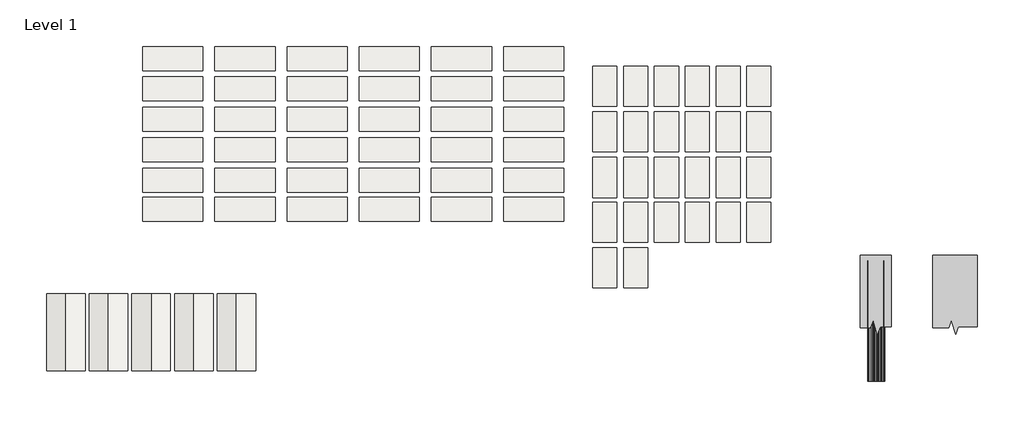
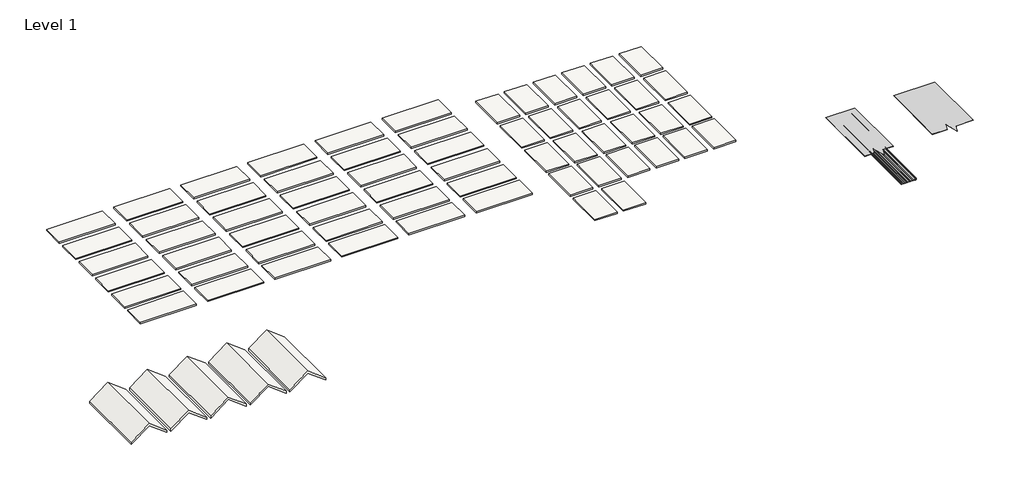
# One storey: 62 slabs, 5 roofs, 3 proxies.
"""IFC4 building model written with IfcOpenShell, lengths in millimetres."""

from ifc_helpers import new_model, si_unit, frame, origin, place, context, project, spatial, polyline, outline, extrude, transform, mapped, element, save
from components import proxy_8f1d55d1, section_mask1_section_mask_d04c1bcf, section_mask2_section_mask_c3d297e0

model = new_model("IFC4")

# Units and contexts
model_context = context("Model", 3, world=origin())
ifc_project = project(units=[si_unit("LENGTHUNIT", "METRE", prefix="MILLI")], contexts=[model_context])

# Site, building, storey
site = spatial("IfcSite", under=ifc_project)
building = spatial("IfcBuilding", under=site)
storey = spatial("IfcBuildingStorey", under=building, Name="Level 1", Elevation=0.0)

# Proxies
placement = place(None, origin())
proxy_shape = proxy_8f1d55d1(model_context)
element("IfcBuildingElementProxy", 1, Name="Metal_Roofing_Standing-Seam-Panel_Steelscape : 16\" Standing Seam Panel", ObjectType="Metal_Roofing_Standing-Seam-Panel_Steelscape : 16\" Standing Seam Panel", at=placement, inside=storey, context=model_context, shape_type="MappedRepresentation", body=[
    mapped(proxy_shape, transform((8065.9412903, 2573.2522943, 0.0), x_axis=(1.0, 0.0, 0.0), y_axis=(0.0, 1.0, 0.0), z_axis=(0.0, 0.0, 1.0))),
])
section_mask1_section_mask_shape = section_mask1_section_mask_d04c1bcf(model_context)
element("IfcBuildingElementProxy", 2, Name="Section Mask1 : Section Mask", ObjectType="Section Mask1 : Section Mask", at=placement, inside=storey, context=model_context, shape_type="MappedRepresentation", body=[
    mapped(section_mask1_section_mask_shape, transform((1955.8, 0.0, 0.0), x_axis=(1.0, 0.0, 0.0), y_axis=(0.0, 1.0, 0.0), z_axis=(0.0, 0.0, 1.0))),
])
section_mask2_section_mask_shape = section_mask2_section_mask_c3d297e0(model_context)
element("IfcBuildingElementProxy", 3, Name="Section Mask2 : Section Mask", ObjectType="Section Mask2 : Section Mask", at=placement, inside=storey, context=model_context, shape_type="MappedRepresentation", body=[
    mapped(section_mask2_section_mask_shape, transform((-31.75, 0.0, 12.7), x_axis=(1.0, 0.0, 0.0), y_axis=(0.0, 1.0, 0.0), z_axis=(0.0, 0.0, 1.0))),
])

# Roofs
element("IfcRoof", 4, ObjectType="16\" Standing Seam Panel", at=placement, inside=storey, context=model_context, shape_type="SweptSolid", body=[
    extrude(outline(polyline([(-299.3992477, -10912.2841678), (66.3458695, -11399.9443241), (-299.3992477, -11887.6044803), (-362.8992477, -11887.6044803), (2.8458695, -11399.9443241), (-362.8992477, -10912.2841678), (-299.3992477, -10912.2841678)])), frame((0.0, -211.318403, 0.0), z_axis=(0.0, 1.0, 0.0), x_axis=(0.0, 0.0, 1.0)), (0.0, 0.0, 1.0), 1950.640625),
])
element("IfcRoof", 5, ObjectType="16\" Standing Seam Panel", at=placement, inside=storey, context=model_context, shape_type="SweptSolid", body=[
    extrude(outline(polyline([(-299.3992477, -9830.9982303), (66.3458695, -10318.6583866), (-299.3992477, -10806.3185428), (-362.8992477, -10806.3185428), (2.8458695, -10318.6583866), (-362.8992477, -9830.9982303), (-299.3992477, -9830.9982303)])), frame((0.0, -211.318403, 0.0), z_axis=(0.0, 1.0, 0.0), x_axis=(0.0, 0.0, 1.0)), (0.0, 0.0, 1.0), 1950.640625),
])
element("IfcRoof", 6, ObjectType="16\" Standing Seam Panel", at=placement, inside=storey, context=model_context, shape_type="SweptSolid", body=[
    extrude(outline(polyline([(-299.3992477, -8749.7122928), (66.3458695, -9237.3724491), (-299.3992477, -9725.0326053), (-362.8992477, -9725.0326053), (2.8458695, -9237.3724491), (-362.8992477, -8749.7122928), (-299.3992477, -8749.7122928)])), frame((0.0, -211.318403, 0.0), z_axis=(0.0, 1.0, 0.0), x_axis=(0.0, 0.0, 1.0)), (0.0, 0.0, 1.0), 1950.640625),
])
element("IfcRoof", 7, ObjectType="16\" Standing Seam Panel", at=placement, inside=storey, context=model_context, shape_type="SweptSolid", body=[
    extrude(outline(polyline([(-299.3992477, -7668.4263553), (66.3458695, -8156.0865116), (-299.3992477, -8643.7466678), (-362.8992477, -8643.7466678), (2.8458695, -8156.0865116), (-362.8992477, -7668.4263553), (-299.3992477, -7668.4263553)])), frame((0.0, -211.318403, 0.0), z_axis=(0.0, 1.0, 0.0), x_axis=(0.0, 0.0, 1.0)), (0.0, 0.0, 1.0), 1950.640625),
])
element("IfcRoof", 8, ObjectType="16\" Standing Seam Panel", at=placement, inside=storey, context=model_context, shape_type="SweptSolid", body=[
    extrude(outline(polyline([(-299.3992477, -11993.5701053), (66.3458695, -12481.2302616), (-299.3992477, -12968.8904178), (-362.8992477, -12968.8904178), (2.8458695, -12481.2302616), (-362.8992477, -11993.5701053), (-299.3992477, -11993.5701053)])), frame((0.0, -211.318403, 0.0), z_axis=(0.0, 1.0, 0.0), x_axis=(0.0, 0.0, 1.0)), (0.0, 0.0, 1.0), 1950.640625),
])

# Slabs
element("IfcSlab", 9, ObjectType="Metal Siding - PAINTED - Steelscape", at=placement, inside=storey, context=model_context, shape_type="SweptSolid", body=[
    extrude(outline(polyline([(-9006.1610252, 7398.0362798), (-10530.1610252, 7398.0362798), (-10530.1610252, 8007.6362798), (-9006.1610252, 8007.6362798), (-9006.1610252, 7398.0362798)])), frame((0.0, 0.0, -38.1), z_axis=(0.0, 0.0, 1.0), x_axis=(1.0, 0.0, 0.0)), (0.0, 0.0, 1.0), 38.1),
])
element("IfcSlab", 10, ObjectType="Metal Siding - PAINTED - Steelscape", at=placement, inside=storey, context=model_context, shape_type="SweptSolid", body=[
    extrude(outline(polyline([(-9006.1610252, 6629.6862798), (-10530.1610252, 6629.6862798), (-10530.1610252, 7239.2862798), (-9006.1610252, 7239.2862798), (-9006.1610252, 6629.6862798)])), frame((0.0, 0.0, -38.1), z_axis=(0.0, 0.0, 1.0), x_axis=(1.0, 0.0, 0.0)), (0.0, 0.0, 1.0), 38.1),
])
element("IfcSlab", 11, ObjectType="Metal Siding - PAINTED - Steelscape", at=placement, inside=storey, context=model_context, shape_type="SweptSolid", body=[
    extrude(outline(polyline([(-9006.1610252, 5861.3362798), (-10530.1610252, 5861.3362798), (-10530.1610252, 6470.9362798), (-9006.1610252, 6470.9362798), (-9006.1610252, 5861.3362798)])), frame((0.0, 0.0, -38.1), z_axis=(0.0, 0.0, 1.0), x_axis=(1.0, 0.0, 0.0)), (0.0, 0.0, 1.0), 38.1),
])
element("IfcSlab", 12, ObjectType="Metal Siding - PAINTED - Steelscape", at=placement, inside=storey, context=model_context, shape_type="SweptSolid", body=[
    extrude(outline(polyline([(-9006.1610252, 5086.6362798), (-10530.1610252, 5086.6362798), (-10530.1610252, 5696.2362798), (-9006.1610252, 5696.2362798), (-9006.1610252, 5086.6362798)])), frame((0.0, 0.0, -38.1), z_axis=(0.0, 0.0, 1.0), x_axis=(1.0, 0.0, 0.0)), (0.0, 0.0, 1.0), 38.1),
])
element("IfcSlab", 13, ObjectType="Metal Siding - PAINTED - Steelscape", at=placement, inside=storey, context=model_context, shape_type="SweptSolid", body=[
    extrude(outline(polyline([(-9006.1610252, 4318.2862798), (-10530.1610252, 4318.2862798), (-10530.1610252, 4927.8862798), (-9006.1610252, 4927.8862798), (-9006.1610252, 4318.2862798)])), frame((0.0, 0.0, -38.1), z_axis=(0.0, 0.0, 1.0), x_axis=(1.0, 0.0, 0.0)), (0.0, 0.0, 1.0), 38.1),
])
element("IfcSlab", 14, ObjectType="Metal Siding - PAINTED - Steelscape", at=placement, inside=storey, context=model_context, shape_type="SweptSolid", body=[
    extrude(outline(polyline([(-9006.1610252, 3575.3362798), (-10530.1610252, 3575.3362798), (-10530.1610252, 4184.9362798), (-9006.1610252, 4184.9362798), (-9006.1610252, 3575.3362798)])), frame((0.0, 0.0, -38.1), z_axis=(0.0, 0.0, 1.0), x_axis=(1.0, 0.0, 0.0)), (0.0, 0.0, 1.0), 38.1),
])
element("IfcSlab", 15, ObjectType="Metal Siding - PAINTED - Steelscape", at=placement, inside=storey, context=model_context, shape_type="SweptSolid", body=[
    extrude(outline(polyline([(-7177.3610252, 7398.0362798), (-8701.3610252, 7398.0362798), (-8701.3610252, 8007.6362798), (-7177.3610252, 8007.6362798), (-7177.3610252, 7398.0362798)])), frame((0.0, 0.0, -38.1), z_axis=(0.0, 0.0, 1.0), x_axis=(1.0, 0.0, 0.0)), (0.0, 0.0, 1.0), 38.1),
])
element("IfcSlab", 16, ObjectType="Metal Siding - PAINTED - Steelscape", at=placement, inside=storey, context=model_context, shape_type="SweptSolid", body=[
    extrude(outline(polyline([(-7177.3610252, 6629.6862798), (-8701.3610252, 6629.6862798), (-8701.3610252, 7239.2862798), (-7177.3610252, 7239.2862798), (-7177.3610252, 6629.6862798)])), frame((0.0, 0.0, -38.1), z_axis=(0.0, 0.0, 1.0), x_axis=(1.0, 0.0, 0.0)), (0.0, 0.0, 1.0), 38.1),
])
element("IfcSlab", 17, ObjectType="Metal Siding - PAINTED - Steelscape", at=placement, inside=storey, context=model_context, shape_type="SweptSolid", body=[
    extrude(outline(polyline([(-7177.3610252, 5861.3362798), (-8701.3610252, 5861.3362798), (-8701.3610252, 6470.9362798), (-7177.3610252, 6470.9362798), (-7177.3610252, 5861.3362798)])), frame((0.0, 0.0, -38.1), z_axis=(0.0, 0.0, 1.0), x_axis=(1.0, 0.0, 0.0)), (0.0, 0.0, 1.0), 38.1),
])
element("IfcSlab", 18, ObjectType="Metal Siding - PAINTED - Steelscape", at=placement, inside=storey, context=model_context, shape_type="SweptSolid", body=[
    extrude(outline(polyline([(-7177.3610252, 5086.6362798), (-8701.3610252, 5086.6362798), (-8701.3610252, 5696.2362798), (-7177.3610252, 5696.2362798), (-7177.3610252, 5086.6362798)])), frame((0.0, 0.0, -38.1), z_axis=(0.0, 0.0, 1.0), x_axis=(1.0, 0.0, 0.0)), (0.0, 0.0, 1.0), 38.1),
])
element("IfcSlab", 19, ObjectType="Metal Siding - PAINTED - Steelscape", at=placement, inside=storey, context=model_context, shape_type="SweptSolid", body=[
    extrude(outline(polyline([(-7177.3610252, 4318.2862798), (-8701.3610252, 4318.2862798), (-8701.3610252, 4927.8862798), (-7177.3610252, 4927.8862798), (-7177.3610252, 4318.2862798)])), frame((0.0, 0.0, -38.1), z_axis=(0.0, 0.0, 1.0), x_axis=(1.0, 0.0, 0.0)), (0.0, 0.0, 1.0), 38.1),
])
element("IfcSlab", 20, ObjectType="Metal Siding - PAINTED - Steelscape", at=placement, inside=storey, context=model_context, shape_type="SweptSolid", body=[
    extrude(outline(polyline([(-7177.3610252, 3575.3362798), (-8701.3610252, 3575.3362798), (-8701.3610252, 4184.9362798), (-7177.3610252, 4184.9362798), (-7177.3610252, 3575.3362798)])), frame((0.0, 0.0, -38.1), z_axis=(0.0, 0.0, 1.0), x_axis=(1.0, 0.0, 0.0)), (0.0, 0.0, 1.0), 38.1),
])
element("IfcSlab", 21, ObjectType="Metal Siding - PAINTED - Steelscape", at=placement, inside=storey, context=model_context, shape_type="SweptSolid", body=[
    extrude(outline(polyline([(-5348.5610252, 7398.0362798), (-6872.5610252, 7398.0362798), (-6872.5610252, 8007.6362798), (-5348.5610252, 8007.6362798), (-5348.5610252, 7398.0362798)])), frame((0.0, 0.0, -38.1), z_axis=(0.0, 0.0, 1.0), x_axis=(1.0, 0.0, 0.0)), (0.0, 0.0, 1.0), 38.1),
])
element("IfcSlab", 22, ObjectType="Metal Siding - PAINTED - Steelscape", at=placement, inside=storey, context=model_context, shape_type="SweptSolid", body=[
    extrude(outline(polyline([(-5348.5610252, 6629.6862798), (-6872.5610252, 6629.6862798), (-6872.5610252, 7239.2862798), (-5348.5610252, 7239.2862798), (-5348.5610252, 6629.6862798)])), frame((0.0, 0.0, -38.1), z_axis=(0.0, 0.0, 1.0), x_axis=(1.0, 0.0, 0.0)), (0.0, 0.0, 1.0), 38.1),
])
element("IfcSlab", 23, ObjectType="Metal Siding - PAINTED - Steelscape", at=placement, inside=storey, context=model_context, shape_type="SweptSolid", body=[
    extrude(outline(polyline([(-5348.5610252, 5861.3362798), (-6872.5610252, 5861.3362798), (-6872.5610252, 6470.9362798), (-5348.5610252, 6470.9362798), (-5348.5610252, 5861.3362798)])), frame((0.0, 0.0, -38.1), z_axis=(0.0, 0.0, 1.0), x_axis=(1.0, 0.0, 0.0)), (0.0, 0.0, 1.0), 38.1),
])
element("IfcSlab", 24, ObjectType="Metal Siding - PAINTED - Steelscape", at=placement, inside=storey, context=model_context, shape_type="SweptSolid", body=[
    extrude(outline(polyline([(-5348.5610252, 5086.6362798), (-6872.5610252, 5086.6362798), (-6872.5610252, 5696.2362798), (-5348.5610252, 5696.2362798), (-5348.5610252, 5086.6362798)])), frame((0.0, 0.0, -38.1), z_axis=(0.0, 0.0, 1.0), x_axis=(1.0, 0.0, 0.0)), (0.0, 0.0, 1.0), 38.1),
])
element("IfcSlab", 25, ObjectType="Metal Siding - PAINTED - Steelscape", at=placement, inside=storey, context=model_context, shape_type="SweptSolid", body=[
    extrude(outline(polyline([(-5348.5610252, 4318.2862798), (-6872.5610252, 4318.2862798), (-6872.5610252, 4927.8862798), (-5348.5610252, 4927.8862798), (-5348.5610252, 4318.2862798)])), frame((0.0, 0.0, -38.1), z_axis=(0.0, 0.0, 1.0), x_axis=(1.0, 0.0, 0.0)), (0.0, 0.0, 1.0), 38.1),
])
element("IfcSlab", 26, ObjectType="Metal Siding - PAINTED - Steelscape", at=placement, inside=storey, context=model_context, shape_type="SweptSolid", body=[
    extrude(outline(polyline([(-5348.5610252, 3575.3362798), (-6872.5610252, 3575.3362798), (-6872.5610252, 4184.9362798), (-5348.5610252, 4184.9362798), (-5348.5610252, 3575.3362798)])), frame((0.0, 0.0, -38.1), z_axis=(0.0, 0.0, 1.0), x_axis=(1.0, 0.0, 0.0)), (0.0, 0.0, 1.0), 38.1),
])
element("IfcSlab", 27, ObjectType="Metal Siding - PAINTED - Steelscape", at=placement, inside=storey, context=model_context, shape_type="SweptSolid", body=[
    extrude(outline(polyline([(-3519.7610252, 7398.0362798), (-5043.7610252, 7398.0362798), (-5043.7610252, 8007.6362798), (-3519.7610252, 8007.6362798), (-3519.7610252, 7398.0362798)])), frame((0.0, 0.0, -38.1), z_axis=(0.0, 0.0, 1.0), x_axis=(1.0, 0.0, 0.0)), (0.0, 0.0, 1.0), 38.1),
])
element("IfcSlab", 28, ObjectType="Metal Siding - PAINTED - Steelscape", at=placement, inside=storey, context=model_context, shape_type="SweptSolid", body=[
    extrude(outline(polyline([(-3519.7610252, 6629.6862798), (-5043.7610252, 6629.6862798), (-5043.7610252, 7239.2862798), (-3519.7610252, 7239.2862798), (-3519.7610252, 6629.6862798)])), frame((0.0, 0.0, -38.1), z_axis=(0.0, 0.0, 1.0), x_axis=(1.0, 0.0, 0.0)), (0.0, 0.0, 1.0), 38.1),
])
element("IfcSlab", 29, ObjectType="Metal Siding - PAINTED - Steelscape", at=placement, inside=storey, context=model_context, shape_type="SweptSolid", body=[
    extrude(outline(polyline([(-3519.7610252, 5861.3362798), (-5043.7610252, 5861.3362798), (-5043.7610252, 6470.9362798), (-3519.7610252, 6470.9362798), (-3519.7610252, 5861.3362798)])), frame((0.0, 0.0, -38.1), z_axis=(0.0, 0.0, 1.0), x_axis=(1.0, 0.0, 0.0)), (0.0, 0.0, 1.0), 38.1),
])
element("IfcSlab", 30, ObjectType="Metal Siding - PAINTED - Steelscape", at=placement, inside=storey, context=model_context, shape_type="SweptSolid", body=[
    extrude(outline(polyline([(-3519.7610252, 5086.6362798), (-5043.7610252, 5086.6362798), (-5043.7610252, 5696.2362798), (-3519.7610252, 5696.2362798), (-3519.7610252, 5086.6362798)])), frame((0.0, 0.0, -38.1), z_axis=(0.0, 0.0, 1.0), x_axis=(1.0, 0.0, 0.0)), (0.0, 0.0, 1.0), 38.1),
])
element("IfcSlab", 31, ObjectType="Metal Siding - PAINTED - Steelscape", at=placement, inside=storey, context=model_context, shape_type="SweptSolid", body=[
    extrude(outline(polyline([(-3519.7610252, 4318.2862798), (-5043.7610252, 4318.2862798), (-5043.7610252, 4927.8862798), (-3519.7610252, 4927.8862798), (-3519.7610252, 4318.2862798)])), frame((0.0, 0.0, -38.1), z_axis=(0.0, 0.0, 1.0), x_axis=(1.0, 0.0, 0.0)), (0.0, 0.0, 1.0), 38.1),
])
element("IfcSlab", 32, ObjectType="Metal Siding - PAINTED - Steelscape", at=placement, inside=storey, context=model_context, shape_type="SweptSolid", body=[
    extrude(outline(polyline([(-3519.7610252, 3575.3362798), (-5043.7610252, 3575.3362798), (-5043.7610252, 4184.9362798), (-3519.7610252, 4184.9362798), (-3519.7610252, 3575.3362798)])), frame((0.0, 0.0, -38.1), z_axis=(0.0, 0.0, 1.0), x_axis=(1.0, 0.0, 0.0)), (0.0, 0.0, 1.0), 38.1),
])
element("IfcSlab", 33, ObjectType="Metal Siding - PAINTED - Steelscape", at=placement, inside=storey, context=model_context, shape_type="SweptSolid", body=[
    extrude(outline(polyline([(-1690.9610252, 7398.0362798), (-3214.9610252, 7398.0362798), (-3214.9610252, 8007.6362798), (-1690.9610252, 8007.6362798), (-1690.9610252, 7398.0362798)])), frame((0.0, 0.0, -38.1), z_axis=(0.0, 0.0, 1.0), x_axis=(1.0, 0.0, 0.0)), (0.0, 0.0, 1.0), 38.1),
])
element("IfcSlab", 34, ObjectType="Metal Siding - PAINTED - Steelscape", at=placement, inside=storey, context=model_context, shape_type="SweptSolid", body=[
    extrude(outline(polyline([(-1690.9610252, 6629.6862798), (-3214.9610252, 6629.6862798), (-3214.9610252, 7239.2862798), (-1690.9610252, 7239.2862798), (-1690.9610252, 6629.6862798)])), frame((0.0, 0.0, -38.1), z_axis=(0.0, 0.0, 1.0), x_axis=(1.0, 0.0, 0.0)), (0.0, 0.0, 1.0), 38.1),
])
element("IfcSlab", 35, ObjectType="Metal Siding - PAINTED - Steelscape", at=placement, inside=storey, context=model_context, shape_type="SweptSolid", body=[
    extrude(outline(polyline([(-1690.9610252, 5861.3362798), (-3214.9610252, 5861.3362798), (-3214.9610252, 6470.9362798), (-1690.9610252, 6470.9362798), (-1690.9610252, 5861.3362798)])), frame((0.0, 0.0, -38.1), z_axis=(0.0, 0.0, 1.0), x_axis=(1.0, 0.0, 0.0)), (0.0, 0.0, 1.0), 38.1),
])
element("IfcSlab", 36, ObjectType="Metal Siding - PAINTED - Steelscape", at=placement, inside=storey, context=model_context, shape_type="SweptSolid", body=[
    extrude(outline(polyline([(-1690.9610252, 5086.6362798), (-3214.9610252, 5086.6362798), (-3214.9610252, 5696.2362798), (-1690.9610252, 5696.2362798), (-1690.9610252, 5086.6362798)])), frame((0.0, 0.0, -38.1), z_axis=(0.0, 0.0, 1.0), x_axis=(1.0, 0.0, 0.0)), (0.0, 0.0, 1.0), 38.1),
])
element("IfcSlab", 37, ObjectType="Metal Siding - PAINTED - Steelscape", at=placement, inside=storey, context=model_context, shape_type="SweptSolid", body=[
    extrude(outline(polyline([(-1690.9610252, 4318.2862798), (-3214.9610252, 4318.2862798), (-3214.9610252, 4927.8862798), (-1690.9610252, 4927.8862798), (-1690.9610252, 4318.2862798)])), frame((0.0, 0.0, -38.1), z_axis=(0.0, 0.0, 1.0), x_axis=(1.0, 0.0, 0.0)), (0.0, 0.0, 1.0), 38.1),
])
element("IfcSlab", 38, ObjectType="Metal Siding - PAINTED - Steelscape", at=placement, inside=storey, context=model_context, shape_type="SweptSolid", body=[
    extrude(outline(polyline([(-1690.9610252, 3575.3362798), (-3214.9610252, 3575.3362798), (-3214.9610252, 4184.9362798), (-1690.9610252, 4184.9362798), (-1690.9610252, 3575.3362798)])), frame((0.0, 0.0, -38.1), z_axis=(0.0, 0.0, 1.0), x_axis=(1.0, 0.0, 0.0)), (0.0, 0.0, 1.0), 38.1),
])
element("IfcSlab", 39, ObjectType="Metal Siding - PAINTED - Steelscape", at=placement, inside=storey, context=model_context, shape_type="SweptSolid", body=[
    extrude(outline(polyline([(137.8389748, 7398.0362798), (-1386.1610252, 7398.0362798), (-1386.1610252, 8007.6362798), (137.8389748, 8007.6362798), (137.8389748, 7398.0362798)])), frame((0.0, 0.0, -38.1), z_axis=(0.0, 0.0, 1.0), x_axis=(1.0, 0.0, 0.0)), (0.0, 0.0, 1.0), 38.1),
])
element("IfcSlab", 40, ObjectType="Metal Siding - PAINTED - Steelscape", at=placement, inside=storey, context=model_context, shape_type="SweptSolid", body=[
    extrude(outline(polyline([(137.8389748, 6629.6862798), (-1386.1610252, 6629.6862798), (-1386.1610252, 7239.2862798), (137.8389748, 7239.2862798), (137.8389748, 6629.6862798)])), frame((0.0, 0.0, -38.1), z_axis=(0.0, 0.0, 1.0), x_axis=(1.0, 0.0, 0.0)), (0.0, 0.0, 1.0), 38.1),
])
element("IfcSlab", 41, ObjectType="Metal Siding - PAINTED - Steelscape", at=placement, inside=storey, context=model_context, shape_type="SweptSolid", body=[
    extrude(outline(polyline([(137.8389748, 5861.3362798), (-1386.1610252, 5861.3362798), (-1386.1610252, 6470.9362798), (137.8389748, 6470.9362798), (137.8389748, 5861.3362798)])), frame((0.0, 0.0, -38.1), z_axis=(0.0, 0.0, 1.0), x_axis=(1.0, 0.0, 0.0)), (0.0, 0.0, 1.0), 38.1),
])
element("IfcSlab", 42, ObjectType="Metal Siding - PAINTED - Steelscape", at=placement, inside=storey, context=model_context, shape_type="SweptSolid", body=[
    extrude(outline(polyline([(137.8389748, 5086.6362798), (-1386.1610252, 5086.6362798), (-1386.1610252, 5696.2362798), (137.8389748, 5696.2362798), (137.8389748, 5086.6362798)])), frame((0.0, 0.0, -38.1), z_axis=(0.0, 0.0, 1.0), x_axis=(1.0, 0.0, 0.0)), (0.0, 0.0, 1.0), 38.1),
])
element("IfcSlab", 43, ObjectType="Metal Siding - PAINTED - Steelscape", at=placement, inside=storey, context=model_context, shape_type="SweptSolid", body=[
    extrude(outline(polyline([(137.8389748, 4318.2862798), (-1386.1610252, 4318.2862798), (-1386.1610252, 4927.8862798), (137.8389748, 4927.8862798), (137.8389748, 4318.2862798)])), frame((0.0, 0.0, -38.1), z_axis=(0.0, 0.0, 1.0), x_axis=(1.0, 0.0, 0.0)), (0.0, 0.0, 1.0), 38.1),
])
element("IfcSlab", 44, ObjectType="Metal Siding - PAINTED - Steelscape", at=placement, inside=storey, context=model_context, shape_type="SweptSolid", body=[
    extrude(outline(polyline([(137.8389748, 3575.3362798), (-1386.1610252, 3575.3362798), (-1386.1610252, 4184.9362798), (137.8389748, 4184.9362798), (137.8389748, 3575.3362798)])), frame((0.0, 0.0, -38.1), z_axis=(0.0, 0.0, 1.0), x_axis=(1.0, 0.0, 0.0)), (0.0, 0.0, 1.0), 38.1),
])
element("IfcSlab", 45, ObjectType="AEP Span Material Sample", at=placement, inside=storey, context=model_context, shape_type="SweptSolid", body=[
    extrude(outline(polyline([(1485.5495194, 6492.0895229), (875.9495194, 6492.0895229), (875.9495194, 7508.0895229), (1485.5495194, 7508.0895229), (1485.5495194, 6492.0895229)])), frame((0.0, 0.0, -38.1), z_axis=(0.0, 0.0, 1.0), x_axis=(1.0, 0.0, 0.0)), (0.0, 0.0, 1.0), 38.1),
])
element("IfcSlab", 46, ObjectType="AEP Span Material Sample", at=placement, inside=storey, context=model_context, shape_type="SweptSolid", body=[
    extrude(outline(polyline([(2266.5995194, 6492.0895229), (1656.9995194, 6492.0895229), (1656.9995194, 7508.0895229), (2266.5995194, 7508.0895229), (2266.5995194, 6492.0895229)])), frame((0.0, 0.0, -38.1), z_axis=(0.0, 0.0, 1.0), x_axis=(1.0, 0.0, 0.0)), (0.0, 0.0, 1.0), 38.1),
])
element("IfcSlab", 47, ObjectType="AEP Span Material Sample", at=placement, inside=storey, context=model_context, shape_type="SweptSolid", body=[
    extrude(outline(polyline([(3047.6495194, 6492.0895229), (2438.0495194, 6492.0895229), (2438.0495194, 7508.0895229), (3047.6495194, 7508.0895229), (3047.6495194, 6492.0895229)])), frame((0.0, 0.0, -38.1), z_axis=(0.0, 0.0, 1.0), x_axis=(1.0, 0.0, 0.0)), (0.0, 0.0, 1.0), 38.1),
])
element("IfcSlab", 48, ObjectType="AEP Span Material Sample", at=placement, inside=storey, context=model_context, shape_type="SweptSolid", body=[
    extrude(outline(polyline([(3828.6995194, 6492.0895229), (3219.0995194, 6492.0895229), (3219.0995194, 7508.0895229), (3828.6995194, 7508.0895229), (3828.6995194, 6492.0895229)])), frame((0.0, 0.0, -38.1), z_axis=(0.0, 0.0, 1.0), x_axis=(1.0, 0.0, 0.0)), (0.0, 0.0, 1.0), 38.1),
])
element("IfcSlab", 49, ObjectType="AEP Span Material Sample", at=placement, inside=storey, context=model_context, shape_type="SweptSolid", body=[
    extrude(outline(polyline([(4609.7495194, 6492.0895229), (4000.1495194, 6492.0895229), (4000.1495194, 7508.0895229), (4609.7495194, 7508.0895229), (4609.7495194, 6492.0895229)])), frame((0.0, 0.0, -38.1), z_axis=(0.0, 0.0, 1.0), x_axis=(1.0, 0.0, 0.0)), (0.0, 0.0, 1.0), 38.1),
])
element("IfcSlab", 50, ObjectType="AEP Span Material Sample", at=placement, inside=storey, context=model_context, shape_type="SweptSolid", body=[
    extrude(outline(polyline([(5390.7995194, 6492.0895229), (4781.1995194, 6492.0895229), (4781.1995194, 7508.0895229), (5390.7995194, 7508.0895229), (5390.7995194, 6492.0895229)])), frame((0.0, 0.0, -38.1), z_axis=(0.0, 0.0, 1.0), x_axis=(1.0, 0.0, 0.0)), (0.0, 0.0, 1.0), 38.1),
])
element("IfcSlab", 51, ObjectType="AEP Span Material Sample", at=placement, inside=storey, context=model_context, shape_type="SweptSolid", body=[
    extrude(outline(polyline([(1485.5495194, 5336.3895229), (875.9495194, 5336.3895229), (875.9495194, 6352.3895229), (1485.5495194, 6352.3895229), (1485.5495194, 5336.3895229)])), frame((0.0, 0.0, -38.1), z_axis=(0.0, 0.0, 1.0), x_axis=(1.0, 0.0, 0.0)), (0.0, 0.0, 1.0), 38.1),
])
element("IfcSlab", 52, ObjectType="AEP Span Material Sample", at=placement, inside=storey, context=model_context, shape_type="SweptSolid", body=[
    extrude(outline(polyline([(2266.5995194, 5336.3895229), (1656.9995194, 5336.3895229), (1656.9995194, 6352.3895229), (2266.5995194, 6352.3895229), (2266.5995194, 5336.3895229)])), frame((0.0, 0.0, -38.1), z_axis=(0.0, 0.0, 1.0), x_axis=(1.0, 0.0, 0.0)), (0.0, 0.0, 1.0), 38.1),
])
element("IfcSlab", 53, ObjectType="AEP Span Material Sample", at=placement, inside=storey, context=model_context, shape_type="SweptSolid", body=[
    extrude(outline(polyline([(3047.6495194, 5336.3895229), (2438.0495194, 5336.3895229), (2438.0495194, 6352.3895229), (3047.6495194, 6352.3895229), (3047.6495194, 5336.3895229)])), frame((0.0, 0.0, -38.1), z_axis=(0.0, 0.0, 1.0), x_axis=(1.0, 0.0, 0.0)), (0.0, 0.0, 1.0), 38.1),
])
element("IfcSlab", 54, ObjectType="AEP Span Material Sample", at=placement, inside=storey, context=model_context, shape_type="SweptSolid", body=[
    extrude(outline(polyline([(3828.6995194, 5336.3895229), (3219.0995194, 5336.3895229), (3219.0995194, 6352.3895229), (3828.6995194, 6352.3895229), (3828.6995194, 5336.3895229)])), frame((0.0, 0.0, -38.1), z_axis=(0.0, 0.0, 1.0), x_axis=(1.0, 0.0, 0.0)), (0.0, 0.0, 1.0), 38.1),
])
element("IfcSlab", 55, ObjectType="AEP Span Material Sample", at=placement, inside=storey, context=model_context, shape_type="SweptSolid", body=[
    extrude(outline(polyline([(4609.7495194, 5336.3895229), (4000.1495194, 5336.3895229), (4000.1495194, 6352.3895229), (4609.7495194, 6352.3895229), (4609.7495194, 5336.3895229)])), frame((0.0, 0.0, -38.1), z_axis=(0.0, 0.0, 1.0), x_axis=(1.0, 0.0, 0.0)), (0.0, 0.0, 1.0), 38.1),
])
element("IfcSlab", 56, ObjectType="AEP Span Material Sample", at=placement, inside=storey, context=model_context, shape_type="SweptSolid", body=[
    extrude(outline(polyline([(5390.7995194, 5336.3895229), (4781.1995194, 5336.3895229), (4781.1995194, 6352.3895229), (5390.7995194, 6352.3895229), (5390.7995194, 5336.3895229)])), frame((0.0, 0.0, -38.1), z_axis=(0.0, 0.0, 1.0), x_axis=(1.0, 0.0, 0.0)), (0.0, 0.0, 1.0), 38.1),
])
element("IfcSlab", 57, ObjectType="AEP Span Material Sample", at=placement, inside=storey, context=model_context, shape_type="SweptSolid", body=[
    extrude(outline(polyline([(1485.5495194, 4180.6895229), (875.9495194, 4180.6895229), (875.9495194, 5196.6895229), (1485.5495194, 5196.6895229), (1485.5495194, 4180.6895229)])), frame((0.0, 0.0, -38.1), z_axis=(0.0, 0.0, 1.0), x_axis=(1.0, 0.0, 0.0)), (0.0, 0.0, 1.0), 38.1),
])
element("IfcSlab", 58, ObjectType="AEP Span Material Sample", at=placement, inside=storey, context=model_context, shape_type="SweptSolid", body=[
    extrude(outline(polyline([(2266.5995194, 4180.6895229), (1656.9995194, 4180.6895229), (1656.9995194, 5196.6895229), (2266.5995194, 5196.6895229), (2266.5995194, 4180.6895229)])), frame((0.0, 0.0, -38.1), z_axis=(0.0, 0.0, 1.0), x_axis=(1.0, 0.0, 0.0)), (0.0, 0.0, 1.0), 38.1),
])
element("IfcSlab", 59, ObjectType="AEP Span Material Sample", at=placement, inside=storey, context=model_context, shape_type="SweptSolid", body=[
    extrude(outline(polyline([(3047.6495194, 4180.6895229), (2438.0495194, 4180.6895229), (2438.0495194, 5196.6895229), (3047.6495194, 5196.6895229), (3047.6495194, 4180.6895229)])), frame((0.0, 0.0, -38.1), z_axis=(0.0, 0.0, 1.0), x_axis=(1.0, 0.0, 0.0)), (0.0, 0.0, 1.0), 38.1),
])
element("IfcSlab", 60, ObjectType="AEP Span Material Sample", at=placement, inside=storey, context=model_context, shape_type="SweptSolid", body=[
    extrude(outline(polyline([(3828.6995194, 4180.6895229), (3219.0995194, 4180.6895229), (3219.0995194, 5196.6895229), (3828.6995194, 5196.6895229), (3828.6995194, 4180.6895229)])), frame((0.0, 0.0, -38.1), z_axis=(0.0, 0.0, 1.0), x_axis=(1.0, 0.0, 0.0)), (0.0, 0.0, 1.0), 38.1),
])
element("IfcSlab", 61, ObjectType="AEP Span Material Sample", at=placement, inside=storey, context=model_context, shape_type="SweptSolid", body=[
    extrude(outline(polyline([(4609.7495194, 4180.6895229), (4000.1495194, 4180.6895229), (4000.1495194, 5196.6895229), (4609.7495194, 5196.6895229), (4609.7495194, 4180.6895229)])), frame((0.0, 0.0, -38.1), z_axis=(0.0, 0.0, 1.0), x_axis=(1.0, 0.0, 0.0)), (0.0, 0.0, 1.0), 38.1),
])
element("IfcSlab", 62, ObjectType="AEP Span Material Sample", at=placement, inside=storey, context=model_context, shape_type="SweptSolid", body=[
    extrude(outline(polyline([(5390.7995194, 4180.6895229), (4781.1995194, 4180.6895229), (4781.1995194, 5196.6895229), (5390.7995194, 5196.6895229), (5390.7995194, 4180.6895229)])), frame((0.0, 0.0, -38.1), z_axis=(0.0, 0.0, 1.0), x_axis=(1.0, 0.0, 0.0)), (0.0, 0.0, 1.0), 38.1),
])
element("IfcSlab", 63, ObjectType="AEP Span Material Sample", at=placement, inside=storey, context=model_context, shape_type="SweptSolid", body=[
    extrude(outline(polyline([(1485.5495194, 3050.3895229), (875.9495194, 3050.3895229), (875.9495194, 4066.3895229), (1485.5495194, 4066.3895229), (1485.5495194, 3050.3895229)])), frame((0.0, 0.0, -38.1), z_axis=(0.0, 0.0, 1.0), x_axis=(1.0, 0.0, 0.0)), (0.0, 0.0, 1.0), 38.1),
])
element("IfcSlab", 64, ObjectType="AEP Span Material Sample", at=placement, inside=storey, context=model_context, shape_type="SweptSolid", body=[
    extrude(outline(polyline([(2266.5995194, 3050.3895229), (1656.9995194, 3050.3895229), (1656.9995194, 4066.3895229), (2266.5995194, 4066.3895229), (2266.5995194, 3050.3895229)])), frame((0.0, 0.0, -38.1), z_axis=(0.0, 0.0, 1.0), x_axis=(1.0, 0.0, 0.0)), (0.0, 0.0, 1.0), 38.1),
])
element("IfcSlab", 65, ObjectType="AEP Span Material Sample", at=placement, inside=storey, context=model_context, shape_type="SweptSolid", body=[
    extrude(outline(polyline([(3047.6495194, 3050.3895229), (2438.0495194, 3050.3895229), (2438.0495194, 4066.3895229), (3047.6495194, 4066.3895229), (3047.6495194, 3050.3895229)])), frame((0.0, 0.0, -38.1), z_axis=(0.0, 0.0, 1.0), x_axis=(1.0, 0.0, 0.0)), (0.0, 0.0, 1.0), 38.1),
])
element("IfcSlab", 66, ObjectType="AEP Span Material Sample", at=placement, inside=storey, context=model_context, shape_type="SweptSolid", body=[
    extrude(outline(polyline([(3828.6995194, 3050.3895229), (3219.0995194, 3050.3895229), (3219.0995194, 4066.3895229), (3828.6995194, 4066.3895229), (3828.6995194, 3050.3895229)])), frame((0.0, 0.0, -38.1), z_axis=(0.0, 0.0, 1.0), x_axis=(1.0, 0.0, 0.0)), (0.0, 0.0, 1.0), 38.1),
])
element("IfcSlab", 67, ObjectType="AEP Span Material Sample", at=placement, inside=storey, context=model_context, shape_type="SweptSolid", body=[
    extrude(outline(polyline([(4609.7495194, 3050.3895229), (4000.1495194, 3050.3895229), (4000.1495194, 4066.3895229), (4609.7495194, 4066.3895229), (4609.7495194, 3050.3895229)])), frame((0.0, 0.0, -38.1), z_axis=(0.0, 0.0, 1.0), x_axis=(1.0, 0.0, 0.0)), (0.0, 0.0, 1.0), 38.1),
])
element("IfcSlab", 68, ObjectType="AEP Span Material Sample", at=placement, inside=storey, context=model_context, shape_type="SweptSolid", body=[
    extrude(outline(polyline([(5390.7995194, 3050.3895229), (4781.1995194, 3050.3895229), (4781.1995194, 4066.3895229), (5390.7995194, 4066.3895229), (5390.7995194, 3050.3895229)])), frame((0.0, 0.0, -38.1), z_axis=(0.0, 0.0, 1.0), x_axis=(1.0, 0.0, 0.0)), (0.0, 0.0, 1.0), 38.1),
])
element("IfcSlab", 69, ObjectType="AEP Span Material Sample", at=placement, inside=storey, context=model_context, shape_type="SweptSolid", body=[
    extrude(outline(polyline([(1485.5495194, 1894.6895229), (875.9495194, 1894.6895229), (875.9495194, 2910.6895229), (1485.5495194, 2910.6895229), (1485.5495194, 1894.6895229)])), frame((0.0, 0.0, -38.1), z_axis=(0.0, 0.0, 1.0), x_axis=(1.0, 0.0, 0.0)), (0.0, 0.0, 1.0), 38.1),
])
element("IfcSlab", 70, ObjectType="AEP Span Material Sample", at=placement, inside=storey, context=model_context, shape_type="SweptSolid", body=[
    extrude(outline(polyline([(2266.5995194, 1894.6895229), (1656.9995194, 1894.6895229), (1656.9995194, 2910.6895229), (2266.5995194, 2910.6895229), (2266.5995194, 1894.6895229)])), frame((0.0, 0.0, -38.1), z_axis=(0.0, 0.0, 1.0), x_axis=(1.0, 0.0, 0.0)), (0.0, 0.0, 1.0), 38.1),
])

save(model, "model.ifc")
